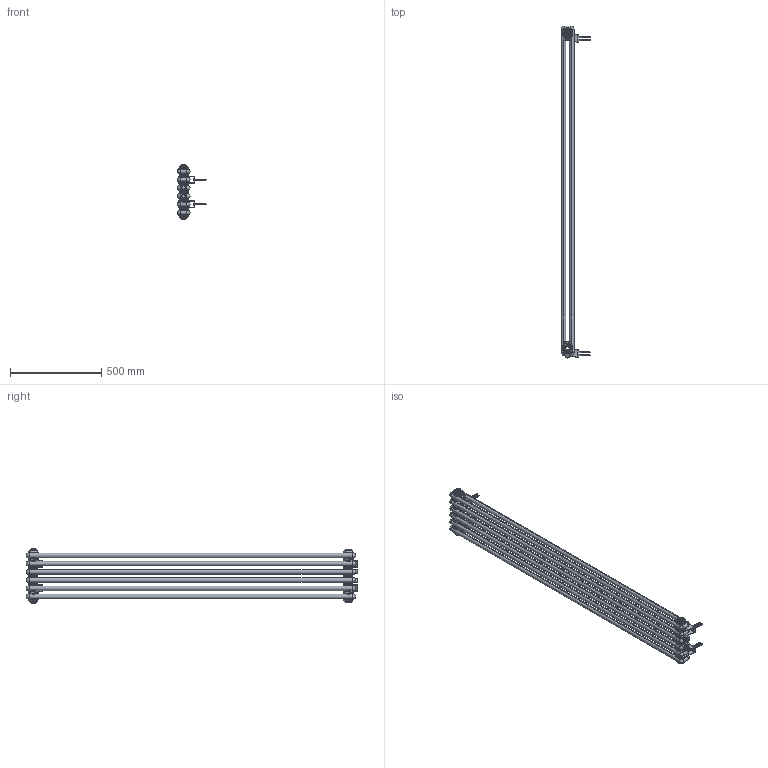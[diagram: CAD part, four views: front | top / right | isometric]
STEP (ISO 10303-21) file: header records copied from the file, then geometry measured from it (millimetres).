
FILE_DESCRIPTION(/* description */ (''),/* implementation_level */ '2;1');
FILE_NAME(/* name */ 'CL02 1800x290 D50',/* time_stamp */ '2023-09-09T13:01:06+08:00',/* author */ (''),/* organization */ (''),/* preprocessor_version */ 'ST-DEVELOPER v9',/* originating_system */ 'UGS - NX 4.0',/* authorisation */ '');
FILE_SCHEMA (('CONFIG_CONTROL_DESIGN'));
Length unit declared in the file: millimetre
Products named in the file (1): AdmiF21Fozef
Bounding box: 161.6 x 1816 x 302 mm (x, y, z)
Volume: 2545428.4 mm3; surface area: 3343434.2 mm2
Topology: 27 solids, 27 shells, 2965 faces, 7315 edges, 4409 vertices
Faces by surface type: bspline 915, cylinder 791, plane 604, torus 356, cone 299
Full cylindrical faces by diameter (mm): 19 x2, 25 x2
Entity records: 194478 total; most frequent: CARTESIAN_POINT 132914, ORIENTED_EDGE 14594, DIRECTION 10577, EDGE_CURVE 7297, VERTEX_POINT 4411, AXIS2_PLACEMENT_3D 4253, EDGE_LOOP 3080, ADVANCED_FACE 2965
